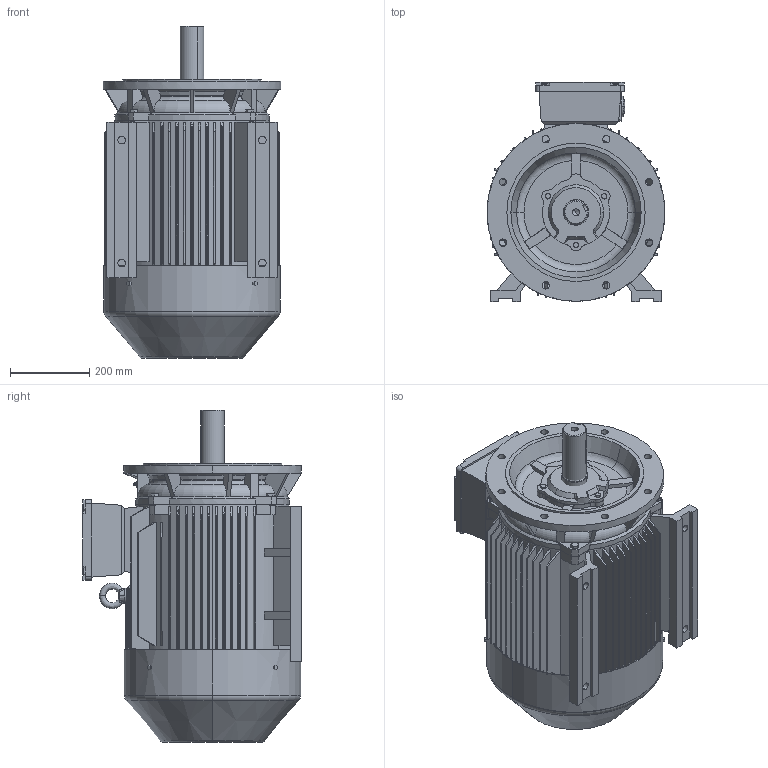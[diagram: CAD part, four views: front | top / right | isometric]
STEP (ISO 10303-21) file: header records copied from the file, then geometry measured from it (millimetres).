
FILE_DESCRIPTION (( 'STEP AP203' ), '1' );
FILE_NAME ('TE3-225M-4,6,8 B35上.STEP', '2019-12-23T02:13:53', ( '微软用户' ), ( '微软中国' ), 'SwSTEP 2.0', 'SolidWorks 2012', '' );
FILE_SCHEMA (( 'CONFIG_CONTROL_DESIGN' ));
Length unit declared in the file: millimetre
Products named in the file (14): TE3-225M-4,6,8 B35奻; 蚐戚; Y2-200~225 P24諉盄碟; hexagon head bolts-full thread gb_GB_FASTENER_BOLT_STBAB A M8X16-N; 8EJ.353.10054GX200~225P24諉盄碟裔; 8EJ.354.594Y2-200~225P24諉盄碟釱; eyebolts gb_GB_FASTENER_SCREWS_FRS M16-N; YX3-225 瑞欶; YE3-225-4,6,8（轴伸）; hex head bolts-full thread grade c gb_GB_FASTENER_BOLT_HHBFTC M12X25-N; hex head bolts-full thread grade c gb_GB_FASTENER_BOLT_HHBFTC M8X25-N; Y2-225-4,6,8轴承外盖（轴伸端）; Y2-225-4,6,8芧埽傷裔017.00082; Y2-225M儂釱8LY2.225.034.002
Assembly tree (21 placements, depth 3):
  TE3-225M-4,6,8 B35奻
    Y2-225M儂釱8LY2.225.034.002
    Y2-225-4,6,8芧埽傷裔017.00082
    Y2-225-4,6,8轴承外盖（轴伸端）
    hex head bolts-full thread grade c gb_GB_FASTENER_BOLT_HHBFTC M8X25-N  x3
    hex head bolts-full thread grade c gb_GB_FASTENER_BOLT_HHBFTC M12X25-N  x4
    YE3-225-4,6,8（轴伸）
    YX3-225 瑞欶
    eyebolts gb_GB_FASTENER_SCREWS_FRS M16-N
    Y2-200~225 P24諉盄碟
      8EJ.354.594Y2-200~225P24諉盄碟釱
      8EJ.353.10054GX200~225P24諉盄碟裔
      hexagon head bolts-full thread gb_GB_FASTENER_BOLT_STBAB A M8X16-N  x4
    蚐戚
Bounding box: 450 x 554 x 840 mm (x, y, z)
Volume: 63181939.8 mm3; surface area: 3850777.6 mm2
Topology: 21 solids, 21 shells, 2829 faces, 6969 edges, 4569 vertices
Faces by surface type: plane 2074, cylinder 325, cone 219, bspline 124, torus 81, sphere 6
Entity records: 92330 total; most frequent: CARTESIAN_POINT 28869, ORIENTED_EDGE 13064, DIRECTION 11618, EDGE_CURVE 6532, VECTOR 4942, LINE 4942, VERTEX_POINT 4306, AXIS2_PLACEMENT_3D 3338
